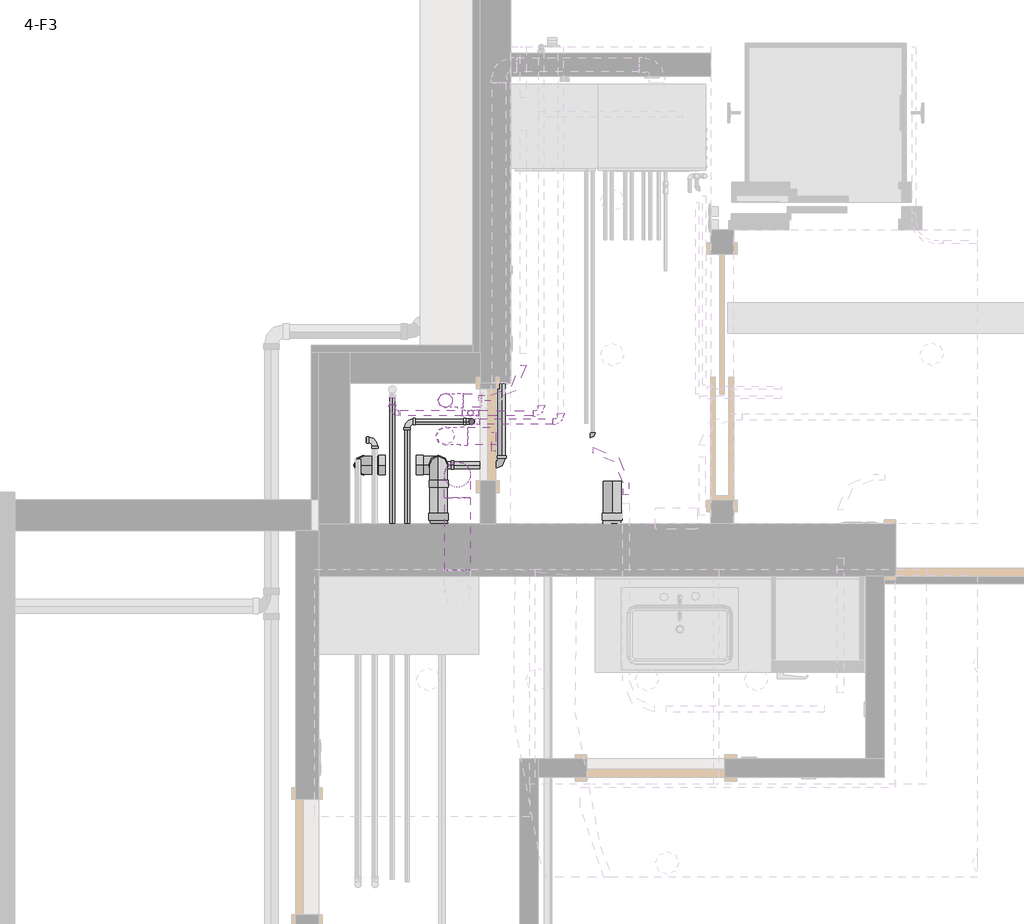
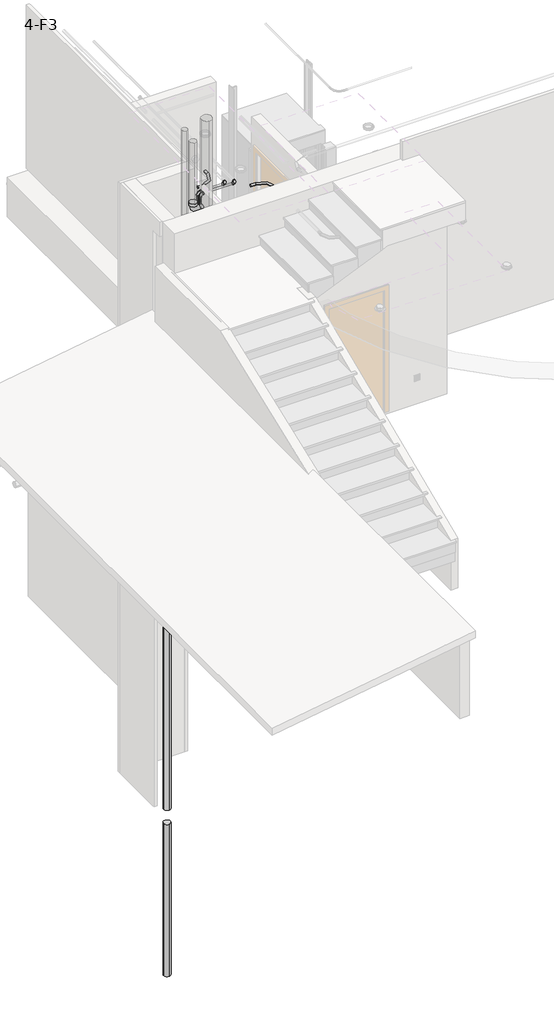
# One storey, part 6 of 11: 30 pipe segments, 22 pipe fittings, 2 cable carrier fittings, 1 proxy.
"""IFC4 building model written with IfcOpenShell, lengths in millimetres."""

from ifc_helpers import new_model, si_unit, point, frame, frame_2d, origin, place, context, project, spatial, circle_curve, trimmed, segment, composite_curve, outline, extrude, transform, mapped, element, save
from components import m_fan_standard_eed13d24, m_conduit_elbow_steel_standard_79cfaf55, m_bend_pvc_sch_40_dwv_standard_1fb0f857, m_bend_pvc_sch_40_dwv_standard_a4b99d37, m_bend_pvc_sch_40_dwv_standard_738aab8b, m_bend_pvc_sch_40_dwv_standard_b153bf5a, m_bend_pvc_sch_40_dwv_standard_2c4d52f1, m_bend_pvc_sch_40_dwv_standard_bf931f02, m_elbow_welded_generic_standard_9026c7fe, m_elbow_welded_generic_standard_c3fc6815, m_tee_reducing_sanitary_pvc_sch_40_dwv_standard_ac374d09

model = new_model("IFC4")

# Units and contexts
model_context = context("Model", 3, world=origin())
ifc_project = project(units=[si_unit("LENGTHUNIT", "METRE", prefix="MILLI")], contexts=[model_context])

# Site, building, storey
site = spatial("IfcSite", under=ifc_project)
building = spatial("IfcBuilding", under=site)
storey = spatial("IfcBuildingStorey", under=building, Name="4-F3", Elevation=9900.0)

# Proxy
placement = place(None, origin())
m_fan_standard_shape = m_fan_standard_eed13d24(model_context)
element("IfcBuildingElementProxy", 1, Name="M_Fan : Standard", ObjectType="M_Fan : Standard", at=placement, inside=storey, context=model_context, shape_type="MappedRepresentation", body=[
    mapped(m_fan_standard_shape, transform((-4957.4765921, 3704.4560655, 12700.0), x_axis=(0.0, 1.0, 0.0), y_axis=(0.0, 0.0, 1.0), z_axis=(1.0, 0.0, 0.0))),
])

# Cable carrier fittings
m_conduit_elbow_steel_standard_shape = m_conduit_elbow_steel_standard_79cfaf55(model_context)
element("IfcCableCarrierFitting", 2, ObjectType="M_Conduit Elbow - Steel : Standard", at=placement, inside=storey, context=model_context, shape_type="MappedRepresentation", body=[
    mapped(m_conduit_elbow_steel_standard_shape, transform((-4777.4765921, 3989.2572999, 12880.825), x_axis=(1.0, 0.0, 0.0), y_axis=(0.0, 1.0, 0.0), z_axis=(0.0, 0.0, 1.0))),
])
element("IfcCableCarrierFitting", 3, ObjectType="M_Conduit Elbow - Steel : Standard", at=placement, inside=storey, context=model_context, shape_type="MappedRepresentation", body=[
    mapped(m_conduit_elbow_steel_standard_shape, transform((-4107.6765921, 3649.3898607, 12880.825), x_axis=(0.0, 1.0, 0.0), y_axis=(-1.0, 0.0, 0.0), z_axis=(0.0, 0.0, 1.0))),
])

# Pipe fittings
m_bend_pvc_sch_40_dwv_standard_shape = m_bend_pvc_sch_40_dwv_standard_1fb0f857(model_context)
element("IfcPipeFitting", 4, ObjectType="M_Bend - PVC - Sch 40 - DWV : Standard", at=placement, inside=storey, context=model_context, shape_type="MappedRepresentation", body=[
    mapped(m_bend_pvc_sch_40_dwv_standard_shape, transform((-5817.4765912, 3552.3881129, 9525.0), x_axis=(0.0, 0.0, 1.0), y_axis=(1.0, 0.0, 0.0), z_axis=(0.0, 1.0, 0.0))),
])
element("IfcPipeFitting", 5, ObjectType="M_Bend - PVC - Sch 40 - DWV : Standard", at=placement, inside=storey, context=model_context, shape_type="MappedRepresentation", body=[
    mapped(m_bend_pvc_sch_40_dwv_standard_shape, transform((-5330.093101, 3552.3881129, 9525.0), x_axis=(1.0, 0.0, 0.0), y_axis=(0.0, 0.0, 1.0), z_axis=(0.0, -1.0, 0.0))),
])
element("IfcPipeFitting", 6, ObjectType="M_Bend - PVC - Sch 40 - DWV : Standard", at=placement, inside=storey, context=model_context, shape_type="MappedRepresentation", body=[
    mapped(m_bend_pvc_sch_40_dwv_standard_shape, transform((-5282.4765921, 3742.3881129, 12711.0), x_axis=(0.0, 0.0, -1.0), y_axis=(1.0, 0.0, 0.0), z_axis=(0.0, -1.0, 0.0))),
])
element("IfcPipeFitting", 7, ObjectType="M_Bend - PVC - Sch 40 - DWV : Standard", at=placement, inside=storey, context=model_context, shape_type="MappedRepresentation", body=[
    mapped(m_bend_pvc_sch_40_dwv_standard_shape, transform((-4197.4765921, 3096.4863231, 10189.0), x_axis=(1.0, 0.0, 0.0), y_axis=(0.0, 0.9999999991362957, -4.1562106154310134e-05), z_axis=(0.0, 4.1562106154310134e-05, 0.9999999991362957))),
])
element("IfcPipeFitting", 8, ObjectType="M_Bend - PVC - Sch 40 - DWV : Standard", at=placement, inside=storey, context=model_context, shape_type="MappedRepresentation", body=[
    mapped(m_bend_pvc_sch_40_dwv_standard_shape, transform((-5330.093101, 3096.4863231, 10189.0), x_axis=(0.0, -1.0, 0.0), y_axis=(1.0, 0.0, 0.0), z_axis=(0.0, 0.0, 1.0))),
])
element("IfcPipeFitting", 9, ObjectType="M_Bend - PVC - Sch 40 - DWV : Standard", at=placement, inside=storey, context=model_context, shape_type="MappedRepresentation", body=[
    mapped(m_bend_pvc_sch_40_dwv_standard_shape, transform((-5330.093101, 3552.3881129, 10189.0), x_axis=(0.0, 0.0, 1.0), y_axis=(0.0, -1.0, 0.0), z_axis=(1.0, 0.0, 0.0))),
])
m_bend_pvc_sch_40_dwv_standard_2_shape = m_bend_pvc_sch_40_dwv_standard_a4b99d37(model_context)
element("IfcPipeFitting", 10, ObjectType="M_Bend - PVC - Sch 40 - DWV : Standard", at=placement, inside=storey, context=model_context, shape_type="MappedRepresentation", body=[
    mapped(m_bend_pvc_sch_40_dwv_standard_2_shape, transform((-5282.4765921, 3974.4560655, 11700.0), x_axis=(-1.0, 0.0, 0.0), y_axis=(0.0, 0.0, 1.0), z_axis=(0.0, 1.0, 0.0))),
])
m_bend_pvc_sch_40_dwv_standard_3_shape = m_bend_pvc_sch_40_dwv_standard_738aab8b(model_context)
element("IfcPipeFitting", 11, ObjectType="M_Bend - PVC - Sch 40 - DWV : Standard", at=placement, inside=storey, context=model_context, shape_type="MappedRepresentation", body=[
    mapped(m_bend_pvc_sch_40_dwv_standard_3_shape, transform((-4917.4765921, 3552.3881129, 9850.0), x_axis=(1.0, 0.0, 0.0), y_axis=(0.0, 1.0, 0.0), z_axis=(0.0, 0.0, 1.0))),
])
element("IfcPipeFitting", 12, ObjectType="M_Bend - PVC - Sch 40 - DWV : Standard", at=placement, inside=storey, context=model_context, shape_type="MappedRepresentation", body=[
    mapped(m_bend_pvc_sch_40_dwv_standard_3_shape, transform((-4610.5767921, 3096.4863231, 10569.1), x_axis=(0.0, 0.0, 1.0), y_axis=(1.0, 0.0, 0.0), z_axis=(0.0, 1.0, 0.0))),
])
m_bend_pvc_sch_40_dwv_standard_4_shape = m_bend_pvc_sch_40_dwv_standard_b153bf5a(model_context)
element("IfcPipeFitting", 13, ObjectType="M_Bend - PVC - Sch 40 - DWV : Standard", at=placement, inside=storey, context=model_context, shape_type="MappedRepresentation", body=[
    mapped(m_bend_pvc_sch_40_dwv_standard_4_shape, transform((-4532.9770075, 3836.4863235, 12870.0), x_axis=(1.0, 0.0, 0.0), y_axis=(0.0, 1.0, 0.0), z_axis=(0.0, 0.0, 1.0))),
])
element("IfcPipeFitting", 14, ObjectType="M_Bend - PVC - Sch 40 - DWV : Standard", at=placement, inside=storey, context=model_context, shape_type="MappedRepresentation", body=[
    mapped(m_bend_pvc_sch_40_dwv_standard_4_shape, transform((-5120.1169828, 3892.0951687, 12870.0), x_axis=(-0.9999999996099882, 2.7928903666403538e-05, 0.0), y_axis=(0.0, 0.0, -1.0), z_axis=(-2.7928903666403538e-05, -0.9999999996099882, 0.0))),
])
element("IfcPipeFitting", 15, ObjectType="M_Bend - PVC - Sch 40 - DWV : Standard", at=placement, inside=storey, context=model_context, shape_type="MappedRepresentation", body=[
    mapped(m_bend_pvc_sch_40_dwv_standard_4_shape, transform((-5120.1169828, 3892.0951687, 11400.0), x_axis=(0.0, 0.0, -1.0), y_axis=(-1.0, 0.0, 0.0), z_axis=(0.0, 1.0, 0.0))),
])
element("IfcPipeFitting", 16, ObjectType="M_Bend - PVC - Sch 40 - DWV : Standard", at=placement, inside=storey, context=model_context, shape_type="MappedRepresentation", body=[
    mapped(m_bend_pvc_sch_40_dwv_standard_4_shape, transform((-5112.9770075, 3836.4863235, 12870.0), x_axis=(-1.0, 0.0, 0.0), y_axis=(0.0, 0.0, -1.0), z_axis=(0.0, -1.0, 0.0))),
])
element("IfcPipeFitting", 17, ObjectType="M_Bend - PVC - Sch 40 - DWV : Standard", at=placement, inside=storey, context=model_context, shape_type="MappedRepresentation", body=[
    mapped(m_bend_pvc_sch_40_dwv_standard_4_shape, transform((-5112.9770075, 3836.4863235, 9900.0), x_axis=(0.0, 0.0, -1.0), y_axis=(-1.0, 0.0, 0.0), z_axis=(0.0, 1.0, 0.0))),
])
element("IfcPipeFitting", 18, ObjectType="M_Bend - PVC - Sch 40 - DWV : Standard", at=placement, inside=storey, context=model_context, shape_type="MappedRepresentation", body=[
    mapped(m_bend_pvc_sch_40_dwv_standard_4_shape, transform((-5742.9770106, 3716.8684602, 9900.0000016), x_axis=(0.0, 0.999999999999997, -7.708798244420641e-08), y_axis=(-0.999999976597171, 1.6677688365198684e-11, 0.00021634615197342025), z_axis=(0.0002163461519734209, 7.708798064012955e-08, 0.999999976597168))),
])
element("IfcPipeFitting", 19, ObjectType="M_Bend - PVC - Sch 40 - DWV : Standard", at=placement, inside=storey, context=model_context, shape_type="MappedRepresentation", body=[
    mapped(m_bend_pvc_sch_40_dwv_standard_4_shape, transform((-5532.9770075, 3836.4863235, 9900.0), x_axis=(-1.0, 0.0, 0.0), y_axis=(0.0, -1.0, 0.0), z_axis=(0.0, 0.0, 1.0))),
])
m_bend_pvc_sch_40_dwv_standard_5_shape = m_bend_pvc_sch_40_dwv_standard_2c4d52f1(model_context)
element("IfcPipeFitting", 20, ObjectType="M_Bend - PVC - Sch 40 - DWV : Standard", at=placement, inside=storey, context=model_context, shape_type="MappedRepresentation", body=[
    mapped(m_bend_pvc_sch_40_dwv_standard_5_shape, transform((-4660.1213464, 3889.2569838, 12870.0), x_axis=(0.9999757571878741, -0.006963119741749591, 0.0), y_axis=(0.006963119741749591, 0.9999757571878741, 0.0), z_axis=(0.0, 0.0, 1.0))),
])
m_bend_pvc_sch_40_dwv_standard_6_shape = m_bend_pvc_sch_40_dwv_standard_bf931f02(model_context)
element("IfcPipeFitting", 21, ObjectType="M_Bend - PVC - Sch 40 - DWV : Standard", at=placement, inside=storey, context=model_context, shape_type="MappedRepresentation", body=[
    mapped(m_bend_pvc_sch_40_dwv_standard_6_shape, transform((-5629.7745883, 3892.0951687, 11400.0), x_axis=(-2.7091882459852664e-05, -0.999999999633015, 0.0), y_axis=(0.999999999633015, -2.7091882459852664e-05, 0.0), z_axis=(0.0, 0.0, 1.0))),
])
m_elbow_welded_generic_standard_shape = m_elbow_welded_generic_standard_9026c7fe(model_context)
element("IfcPipeFitting", 22, ObjectType="M_Elbow - Welded - Generic : Standard", at=placement, inside=storey, context=model_context, shape_type="MappedRepresentation", body=[
    mapped(m_elbow_welded_generic_standard_shape, transform((-5205.698775, 3492.3614186, 11985.0), x_axis=(0.0, 1.0, 0.0), y_axis=(0.0, 0.0, 1.0), z_axis=(1.0, 0.0, 0.0))),
])
m_elbow_welded_generic_standard_2_shape = m_elbow_welded_generic_standard_c3fc6815(model_context)
element("IfcPipeFitting", 23, ObjectType="M_Elbow - Welded - Generic : Standard", at=placement, inside=storey, context=model_context, shape_type="MappedRepresentation", body=[
    mapped(m_elbow_welded_generic_standard_2_shape, transform((-4324.0305462, 3745.4616042, 9540.0), x_axis=(1.0, 0.0, 0.0), y_axis=(0.0, 1.0, 0.0), z_axis=(0.0, 0.0, 1.0))),
])
m_tee_reducing_sanitary_pvc_sch_40_dwv_standard_shape = m_tee_reducing_sanitary_pvc_sch_40_dwv_standard_ac374d09(model_context)
element("IfcPipeFitting", 24, ObjectType="M_Tee Reducing Sanitary - PVC - Sch 40 - DWV : Standard", at=placement, inside=storey, context=model_context, shape_type="MappedRepresentation", body=[
    mapped(m_tee_reducing_sanitary_pvc_sch_40_dwv_standard_shape, transform((-4610.5767921, 3096.4863231, 10189.0), x_axis=(1.0, 0.0, 0.0), y_axis=(0.0, 0.0, -1.0), z_axis=(0.0, 1.0, 0.0))),
])
element("IfcPipeFitting", 25, ObjectType="M_Tee Reducing Sanitary - PVC - Sch 40 - DWV : Standard", at=placement, inside=storey, context=model_context, shape_type="MappedRepresentation", body=[
    mapped(m_tee_reducing_sanitary_pvc_sch_40_dwv_standard_shape, transform((-5330.093101, 3552.3881129, 9850.0), x_axis=(0.0, 0.0, 1.0), y_axis=(-1.0, 0.0, 0.0), z_axis=(0.0, -1.0, 0.0))),
])

# Pipe segments
element("IfcPipeSegment", 26, ObjectType="PVC - DWV", at=placement, inside=storey, context=model_context, shape_type="SweptSolid", body=[
    extrude(outline(composite_curve([segment(trimmed(circle_curve(frame_2d((11985.0, -5205.698775)), 84.1375), [point((11985.0, -5121.561275))], [point((12069.1375, -5205.698775))], False, "CARTESIAN"), True, "CONTINUOUS"), segment(trimmed(circle_curve(frame_2d((11985.0, -5205.698775)), 84.1375), [point((12069.1375, -5205.698775))], [point((11985.0, -5289.836275))], False, "CARTESIAN"), True, "CONTINUOUS"), segment(trimmed(circle_curve(frame_2d((11985.0, -5205.698775)), 84.1375), [point((11985.0, -5289.836275))], [point((11900.8625, -5205.698775))], False, "CARTESIAN"), True, "CONTINUOUS"), segment(trimmed(circle_curve(frame_2d((11985.0, -5205.698775)), 84.1375), [point((11900.8625, -5205.698775))], [point((11985.0, -5121.561275))], False, "CARTESIAN"), True, "CONTINUOUS")], self_intersect=False)), frame((0.0, 2869.3614186, 0.0), z_axis=(0.0, 1.0, 0.0), x_axis=(0.0, 0.0, 1.0)), (0.0, 0.0, 1.0), 471.0),
])
element("IfcPipeSegment", 27, ObjectType="PVC - DWV", at=placement, inside=storey, context=model_context, shape_type="SweptSolid", body=[
    extrude(outline(composite_curve([segment(trimmed(circle_curve(frame_2d((-5205.698775, 3492.3614186)), 84.1375), [point((-5289.836275, 3492.3614186))], [point((-5205.698775, 3576.4989186))], False, "CARTESIAN"), True, "CONTINUOUS"), segment(trimmed(circle_curve(frame_2d((-5205.698775, 3492.3614186)), 84.1375), [point((-5205.698775, 3576.4989186))], [point((-5121.561275, 3492.3614186))], False, "CARTESIAN"), True, "CONTINUOUS"), segment(trimmed(circle_curve(frame_2d((-5205.698775, 3492.3614186)), 84.1375), [point((-5121.561275, 3492.3614186))], [point((-5205.698775, 3408.2239186))], False, "CARTESIAN"), True, "CONTINUOUS"), segment(trimmed(circle_curve(frame_2d((-5205.698775, 3492.3614186)), 84.1375), [point((-5205.698775, 3408.2239186))], [point((-5289.836275, 3492.3614186))], False, "CARTESIAN"), True, "CONTINUOUS")], self_intersect=False)), frame((0.0, 0.0, 12137.0), z_axis=(0.0, 0.0, 1.0), x_axis=(1.0, 0.0, 0.0)), (0.0, 0.0, 1.0), 2283.0),
])
element("IfcPipeSegment", 28, ObjectType="PVC - DWV", at=placement, inside=storey, context=model_context, shape_type="SweptSolid", body=[
    extrude(outline(composite_curve([segment(trimmed(circle_curve(frame_2d((3096.4863231, 10569.1)), 24.13), [point((3120.6163231, 10569.1))], [point((3096.4863231, 10544.97))], False, "CARTESIAN"), True, "CONTINUOUS"), segment(trimmed(circle_curve(frame_2d((3096.4863231, 10569.1)), 24.13), [point((3096.4863231, 10544.97))], [point((3072.3563231, 10569.1))], False, "CARTESIAN"), True, "CONTINUOUS"), segment(trimmed(circle_curve(frame_2d((3096.4863231, 10569.1)), 24.13), [point((3072.3563231, 10569.1))], [point((3096.4863231, 10593.23))], False, "CARTESIAN"), True, "CONTINUOUS"), segment(trimmed(circle_curve(frame_2d((3096.4863231, 10569.1)), 24.13), [point((3096.4863231, 10593.23))], [point((3120.6163231, 10569.1))], False, "CARTESIAN"), True, "CONTINUOUS")], self_intersect=False)), frame((-4548.6769921, 0.0, 0.0), z_axis=(1.0, 0.0, 0.0), x_axis=(0.0, 1.0, 0.0)), (0.0, 0.0, 1.0), 729.3006),
])
element("IfcPipeSegment", 29, ObjectType="PVC - DWV", at=placement, inside=storey, context=model_context, shape_type="SweptSolid", body=[
    extrude(outline(composite_curve([segment(trimmed(circle_curve(frame_2d((-5817.4765912, 3552.3881129)), 57.15), [point((-5760.3265912, 3552.3881129))], [point((-5817.4765912, 3495.2381129))], False, "CARTESIAN"), True, "CONTINUOUS"), segment(trimmed(circle_curve(frame_2d((-5817.4765912, 3552.3881129)), 57.15), [point((-5817.4765912, 3495.2381129))], [point((-5874.6265912, 3552.3881129))], False, "CARTESIAN"), True, "CONTINUOUS"), segment(trimmed(circle_curve(frame_2d((-5817.4765912, 3552.3881129)), 57.15), [point((-5874.6265912, 3552.3881129))], [point((-5817.4765912, 3609.5381129))], False, "CARTESIAN"), True, "CONTINUOUS"), segment(trimmed(circle_curve(frame_2d((-5817.4765912, 3552.3881129)), 57.15), [point((-5817.4765912, 3609.5381129))], [point((-5760.3265912, 3552.3881129))], False, "CARTESIAN"), True, "CONTINUOUS")], self_intersect=False)), frame((0.0, 0.0, -136.475), z_axis=(0.0, 0.0, 1.0), x_axis=(1.0, 0.0, 0.0)), (0.0, 0.0, 1.0), 2615.0),
])
element("IfcPipeSegment", 30, ObjectType="PVC - DWV", at=placement, inside=storey, context=model_context, shape_type="SweptSolid", body=[
    extrude(outline(composite_curve([segment(trimmed(circle_curve(frame_2d((0.0, 16.7005)), 16.7005), [point((16.7005, 16.7005))], [point((0.0, 0.0))], False, "CARTESIAN"), True, "CONTINUOUS"), segment(trimmed(circle_curve(frame_2d((0.0, 16.7005)), 16.7005), [point((0.0, 0.0))], [point((-16.7005001, 16.7005))], False, "CARTESIAN"), True, "CONTINUOUS"), segment(trimmed(circle_curve(frame_2d((0.0, 16.7005)), 16.7005), [point((-16.7005001, 16.7005))], [point((0.0, 33.401))], False, "CARTESIAN"), True, "CONTINUOUS"), segment(trimmed(circle_curve(frame_2d((0.0, 16.7005)), 16.7005), [point((0.0, 33.401))], [point((16.7005, 16.7005))], False, "CARTESIAN"), True, "CONTINUOUS")], self_intersect=False)), frame((-4712.7341334, 3889.6233418, 12886.7005), z_axis=(-0.9999757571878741, 0.006963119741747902, 0.0), x_axis=(0.006963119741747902, 0.9999757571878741, 0.0)), (0.0, 0.0, 1.0), 354.7773877),
])
element("IfcPipeSegment", 31, ObjectType="PVC - DWV", at=placement, inside=storey, context=model_context, shape_type="SweptSolid", body=[
    extrude(outline(composite_curve([segment(trimmed(circle_curve(frame_2d((3836.4863235, 12870.0)), 16.7005), [point((3853.1868235, 12870.0))], [point((3836.4863235, 12853.2995))], False, "CARTESIAN"), True, "CONTINUOUS"), segment(trimmed(circle_curve(frame_2d((3836.4863235, 12870.0)), 16.7005), [point((3836.4863235, 12853.2995))], [point((3819.7858235, 12870.0))], False, "CARTESIAN"), True, "CONTINUOUS"), segment(trimmed(circle_curve(frame_2d((3836.4863235, 12870.0)), 16.7005), [point((3819.7858235, 12870.0))], [point((3836.4863235, 12886.7005))], False, "CARTESIAN"), True, "CONTINUOUS"), segment(trimmed(circle_curve(frame_2d((3836.4863235, 12870.0)), 16.7005), [point((3836.4863235, 12886.7005))], [point((3853.1868235, 12870.0))], False, "CARTESIAN"), True, "CONTINUOUS")], self_intersect=False)), frame((-5060.362945, 0.0, 0.0), z_axis=(1.0, 0.0, 0.0), x_axis=(0.0, 1.0, 0.0)), (0.0, 0.0, 1.0), 474.771875),
])
element("IfcPipeSegment", 32, ObjectType="PVC - DWV", at=placement, inside=storey, context=model_context, shape_type="SweptSolid", body=[
    extrude(outline(composite_curve([segment(trimmed(circle_curve(frame_2d((3716.8684602, 9900.0124169)), 16.7005), [point((3700.1679602, 9900.0124169))], [point((3716.8684602, 9916.7129169))], False, "CARTESIAN"), True, "CONTINUOUS"), segment(trimmed(circle_curve(frame_2d((3716.8684602, 9900.0124169)), 16.7005), [point((3716.8684602, 9916.7129169))], [point((3733.5689602, 9900.0124169))], False, "CARTESIAN"), True, "CONTINUOUS"), segment(trimmed(circle_curve(frame_2d((3716.8684602, 9900.0124169)), 16.7005), [point((3733.5689602, 9900.0124169))], [point((3716.8684602, 9883.3119169))], False, "CARTESIAN"), True, "CONTINUOUS"), segment(trimmed(circle_curve(frame_2d((3716.8684602, 9900.0124169)), 16.7005), [point((3716.8684602, 9883.3119169))], [point((3700.1679602, 9900.0124169))], False, "CARTESIAN"), True, "CONTINUOUS")], self_intersect=False)), frame((-5800.3631367, 0.0, 0.0), z_axis=(1.0, 0.0, 0.0), x_axis=(0.0, 1.0, 0.0)), (0.0, 0.0, 1.0), 4.7720648),
])
element("IfcPipeSegment", 33, ObjectType="PVC - DWV", at=placement, inside=storey, context=model_context, shape_type="SweptSolid", body=[
    extrude(outline(composite_curve([segment(trimmed(circle_curve(frame_2d((3892.0951687, 11400.0)), 16.7005), [point((3908.7956687, 11400.0))], [point((3892.0951687, 11383.2995))], False, "CARTESIAN"), True, "CONTINUOUS"), segment(trimmed(circle_curve(frame_2d((3892.0951687, 11400.0)), 16.7005), [point((3892.0951687, 11383.2995))], [point((3875.3946687, 11400.0))], False, "CARTESIAN"), True, "CONTINUOUS"), segment(trimmed(circle_curve(frame_2d((3892.0951687, 11400.0)), 16.7005), [point((3875.3946687, 11400.0))], [point((3892.0951687, 11416.7005))], False, "CARTESIAN"), True, "CONTINUOUS"), segment(trimmed(circle_curve(frame_2d((3892.0951687, 11400.0)), 16.7005), [point((3892.0951687, 11416.7005))], [point((3908.7956687, 11400.0))], False, "CARTESIAN"), True, "CONTINUOUS")], self_intersect=False)), frame((-5577.1605258, 0.0, 0.0), z_axis=(1.0, 0.0, 0.0), x_axis=(0.0, 1.0, 0.0)), (0.0, 0.0, 1.0), 404.4294806),
])
element("IfcPipeSegment", 34, ObjectType="PVC - DWV", at=placement, inside=storey, context=model_context, shape_type="SweptSolid", body=[
    extrude(outline(composite_curve([segment(trimmed(circle_curve(frame_2d((-5120.1169828, 3892.0951687)), 16.7005), [point((-5103.4164828, 3892.0951687))], [point((-5120.1169828, 3875.3946687))], False, "CARTESIAN"), True, "CONTINUOUS"), segment(trimmed(circle_curve(frame_2d((-5120.1169828, 3892.0951687)), 16.7005), [point((-5120.1169828, 3875.3946687))], [point((-5136.8174828, 3892.0951687))], False, "CARTESIAN"), True, "CONTINUOUS"), segment(trimmed(circle_curve(frame_2d((-5120.1169828, 3892.0951687)), 16.7005), [point((-5136.8174828, 3892.0951687))], [point((-5120.1169828, 3908.7956687))], False, "CARTESIAN"), True, "CONTINUOUS"), segment(trimmed(circle_curve(frame_2d((-5120.1169828, 3892.0951687)), 16.7005), [point((-5120.1169828, 3908.7956687))], [point((-5103.4164828, 3892.0951687))], False, "CARTESIAN"), True, "CONTINUOUS")], self_intersect=False)), frame((0.0, 0.0, 11452.6140625), z_axis=(0.0, 0.0, 1.0), x_axis=(1.0, 0.0, 0.0)), (0.0, 0.0, 1.0), 8.3859375),
])
element("IfcPipeSegment", 35, ObjectType="PVC - DWV", at=placement, inside=storey, context=model_context, shape_type="SweptSolid", body=[
    extrude(outline(composite_curve([segment(trimmed(circle_curve(frame_2d((0.0, -16.7005)), 16.7005), [point((0.0, 0.0))], [point((16.7005, -16.7005))], False, "CARTESIAN"), True, "CONTINUOUS"), segment(trimmed(circle_curve(frame_2d((0.0, -16.7005)), 16.7005), [point((16.7005, -16.7005))], [point((0.0, -33.401))], False, "CARTESIAN"), True, "CONTINUOUS"), segment(trimmed(circle_curve(frame_2d((0.0, -16.7005)), 16.7005), [point((0.0, -33.401))], [point((-16.7005, -16.7005))], False, "CARTESIAN"), True, "CONTINUOUS"), segment(trimmed(circle_curve(frame_2d((0.0, -16.7005)), 16.7005), [point((-16.7005, -16.7005))], [point((0.0, 0.0))], False, "CARTESIAN"), True, "CONTINUOUS")], self_intersect=False)), frame((-5646.4736629, 3944.7094056, 11400.0), z_axis=(1.0443296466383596e-05, 0.9999999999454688, 0.0), x_axis=(0.0, 0.0, -1.0)), (0.0, 0.0, 1.0), 48.818348),
])
element("IfcPipeSegment", 36, ObjectType="PVC - DWV", at=placement, inside=storey, context=model_context, shape_type="SweptSolid", body=[
    extrude(outline(composite_curve([segment(trimmed(circle_curve(frame_2d((-5120.1169828, 3892.0951687)), 16.7005), [point((-5103.4164828, 3892.0951687))], [point((-5120.1169828, 3875.3946687))], False, "CARTESIAN"), True, "CONTINUOUS"), segment(trimmed(circle_curve(frame_2d((-5120.1169828, 3892.0951687)), 16.7005), [point((-5120.1169828, 3875.3946687))], [point((-5136.8174828, 3892.0951687))], False, "CARTESIAN"), True, "CONTINUOUS"), segment(trimmed(circle_curve(frame_2d((-5120.1169828, 3892.0951687)), 16.7005), [point((-5136.8174828, 3892.0951687))], [point((-5120.1169828, 3908.7956687))], False, "CARTESIAN"), True, "CONTINUOUS"), segment(trimmed(circle_curve(frame_2d((-5120.1169828, 3892.0951687)), 16.7005), [point((-5120.1169828, 3908.7956687))], [point((-5103.4164828, 3892.0951687))], False, "CARTESIAN"), True, "CONTINUOUS")], self_intersect=False)), frame((0.0, 0.0, 11639.0), z_axis=(0.0, 0.0, 1.0), x_axis=(1.0, 0.0, 0.0)), (0.0, 0.0, 1.0), 1178.3859375),
])
element("IfcPipeSegment", 37, ObjectType="PVC - DWV", at=placement, inside=storey, context=model_context, shape_type="SweptSolid", body=[
    extrude(outline(composite_curve([segment(trimmed(circle_curve(frame_2d((3836.4863235, 9900.0)), 16.7005), [point((3819.7858235, 9900.0))], [point((3836.4863235, 9916.7005))], False, "CARTESIAN"), True, "CONTINUOUS"), segment(trimmed(circle_curve(frame_2d((3836.4863235, 9900.0)), 16.7005), [point((3836.4863235, 9916.7005))], [point((3853.1868235, 9900.0))], False, "CARTESIAN"), True, "CONTINUOUS"), segment(trimmed(circle_curve(frame_2d((3836.4863235, 9900.0)), 16.7005), [point((3853.1868235, 9900.0))], [point((3836.4863235, 9883.2995))], False, "CARTESIAN"), True, "CONTINUOUS"), segment(trimmed(circle_curve(frame_2d((3836.4863235, 9900.0)), 16.7005), [point((3836.4863235, 9883.2995))], [point((3819.7858235, 9900.0))], False, "CARTESIAN"), True, "CONTINUOUS")], self_intersect=False)), frame((-5480.362945, 0.0, 0.0), z_axis=(1.0, 0.0, 0.0), x_axis=(0.0, 1.0, 0.0)), (0.0, 0.0, 1.0), 314.771875),
])
element("IfcPipeSegment", 38, ObjectType="PVC - DWV", at=placement, inside=storey, context=model_context, shape_type="SweptSolid", body=[
    extrude(outline(composite_curve([segment(trimmed(circle_curve(frame_2d((-5112.9770075, 3836.4863235)), 16.7005), [point((-5129.6775075, 3836.4863235))], [point((-5112.9770075, 3853.1868235))], False, "CARTESIAN"), True, "CONTINUOUS"), segment(trimmed(circle_curve(frame_2d((-5112.9770075, 3836.4863235)), 16.7005), [point((-5112.9770075, 3853.1868235))], [point((-5096.2765075, 3836.4863235))], False, "CARTESIAN"), True, "CONTINUOUS"), segment(trimmed(circle_curve(frame_2d((-5112.9770075, 3836.4863235)), 16.7005), [point((-5096.2765075, 3836.4863235))], [point((-5112.9770075, 3819.7858235))], False, "CARTESIAN"), True, "CONTINUOUS"), segment(trimmed(circle_curve(frame_2d((-5112.9770075, 3836.4863235)), 16.7005), [point((-5112.9770075, 3819.7858235))], [point((-5129.6775075, 3836.4863235))], False, "CARTESIAN"), True, "CONTINUOUS")], self_intersect=False)), frame((0.0, 0.0, 9952.6140625), z_axis=(0.0, 0.0, 1.0), x_axis=(1.0, 0.0, 0.0)), (0.0, 0.0, 1.0), 2864.771875),
])
element("IfcPipeSegment", 39, ObjectType="PVC - DWV", at=placement, inside=storey, context=model_context, shape_type="SweptSolid", body=[
    extrude(outline(composite_curve([segment(trimmed(circle_curve(frame_2d((9900.0, -5532.9770075)), 16.7005), [point((9900.0, -5549.6775075))], [point((9883.2995, -5532.9770075))], False, "CARTESIAN"), True, "CONTINUOUS"), segment(trimmed(circle_curve(frame_2d((9900.0, -5532.9770075)), 16.7005), [point((9883.2995, -5532.9770075))], [point((9900.0, -5516.2765075))], False, "CARTESIAN"), True, "CONTINUOUS"), segment(trimmed(circle_curve(frame_2d((9900.0, -5532.9770075)), 16.7005), [point((9900.0, -5516.2765075))], [point((9916.7005, -5532.9770075))], False, "CARTESIAN"), True, "CONTINUOUS"), segment(trimmed(circle_curve(frame_2d((9900.0, -5532.9770075)), 16.7005), [point((9916.7005, -5532.9770075))], [point((9900.0, -5549.6775075))], False, "CARTESIAN"), True, "CONTINUOUS")], self_intersect=False)), frame((0.0, 3005.3082606, 0.0), z_axis=(0.0, 1.0, 0.0), x_axis=(0.0, 0.0, 1.0)), (0.0, 0.0, 1.0), 778.5640004),
])
element("IfcPipeSegment", 40, ObjectType="PVC - DWV", at=placement, inside=storey, context=model_context, shape_type="SweptSolid", body=[
    extrude(outline(composite_curve([segment(trimmed(circle_curve(frame_2d((0.0, -16.7005)), 16.7005), [point((0.0, 0.0))], [point((16.7005, -16.7005))], False, "CARTESIAN"), True, "CONTINUOUS"), segment(trimmed(circle_curve(frame_2d((0.0, -16.7005)), 16.7005), [point((16.7005, -16.7005))], [point((0.0, -33.401))], False, "CARTESIAN"), True, "CONTINUOUS"), segment(trimmed(circle_curve(frame_2d((0.0, -16.7005)), 16.7005), [point((0.0, -33.401))], [point((-16.7005, -16.7005))], False, "CARTESIAN"), True, "CONTINUOUS"), segment(trimmed(circle_curve(frame_2d((0.0, -16.7005)), 16.7005), [point((-16.7005, -16.7005))], [point((0.0, 0.0))], False, "CARTESIAN"), True, "CONTINUOUS")], self_intersect=False)), frame((-5646.4747007, 3005.3084006, 9900.0), z_axis=(8.380249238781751e-06, 0.9999999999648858, 0.0), x_axis=(0.0, 0.0, -1.0)), (0.0, 0.0, 1.0), 988.2193186),
])
element("IfcPipeSegment", 41, ObjectType="PVC - DWV", at=placement, inside=storey, context=model_context, shape_type="SweptSolid", body=[
    extrude(outline(composite_curve([segment(trimmed(circle_curve(frame_2d((-5330.093101, 3552.3881129)), 57.15), [point((-5387.243101, 3552.3881129))], [point((-5330.093101, 3609.5381129))], False, "CARTESIAN"), True, "CONTINUOUS"), segment(trimmed(circle_curve(frame_2d((-5330.093101, 3552.3881129)), 57.15), [point((-5330.093101, 3609.5381129))], [point((-5272.943101, 3552.3881129))], False, "CARTESIAN"), True, "CONTINUOUS"), segment(trimmed(circle_curve(frame_2d((-5330.093101, 3552.3881129)), 57.15), [point((-5272.943101, 3552.3881129))], [point((-5330.093101, 3495.2381129))], False, "CARTESIAN"), True, "CONTINUOUS"), segment(trimmed(circle_curve(frame_2d((-5330.093101, 3552.3881129)), 57.15), [point((-5330.093101, 3495.2381129))], [point((-5387.243101, 3552.3881129))], False, "CARTESIAN"), True, "CONTINUOUS")], self_intersect=False)), frame((0.0, 0.0, 9923.025), z_axis=(0.0, 0.0, 1.0), x_axis=(1.0, 0.0, 0.0)), (0.0, 0.0, 1.0), 123.1),
])
element("IfcPipeSegment", 42, ObjectType="PVC - DWV", at=placement, inside=storey, context=model_context, shape_type="SweptSolid", body=[
    extrude(outline(composite_curve([segment(trimmed(circle_curve(frame_2d((-5282.4765921, 3742.3881129)), 57.15), [point((-5339.6265921, 3742.3881129))], [point((-5282.4765921, 3799.5381129))], False, "CARTESIAN"), True, "CONTINUOUS"), segment(trimmed(circle_curve(frame_2d((-5282.4765921, 3742.3881129)), 57.15), [point((-5282.4765921, 3799.5381129))], [point((-5225.3265921, 3742.3881129))], False, "CARTESIAN"), True, "CONTINUOUS"), segment(trimmed(circle_curve(frame_2d((-5282.4765921, 3742.3881129)), 57.15), [point((-5225.3265921, 3742.3881129))], [point((-5282.4765921, 3685.2381129))], False, "CARTESIAN"), True, "CONTINUOUS"), segment(trimmed(circle_curve(frame_2d((-5282.4765921, 3742.3881129)), 57.15), [point((-5282.4765921, 3685.2381129))], [point((-5339.6265921, 3742.3881129))], False, "CARTESIAN"), True, "CONTINUOUS")], self_intersect=False)), frame((0.0, 0.0, 12853.875), z_axis=(0.0, 0.0, 1.0), x_axis=(1.0, 0.0, 0.0)), (0.0, 0.0, 1.0), 1046.125),
])
element("IfcPipeSegment", 43, ObjectType="PVC - DWV", at=placement, inside=storey, context=model_context, shape_type="SweptSolid", body=[
    extrude(outline(composite_curve([segment(trimmed(circle_curve(frame_2d((3974.4560655, 11700.0)), 44.45), [point((4018.9060655, 11700.0))], [point((3974.4560655, 11655.55))], False, "CARTESIAN"), True, "CONTINUOUS"), segment(trimmed(circle_curve(frame_2d((3974.4560655, 11700.0)), 44.45), [point((3974.4560655, 11655.55))], [point((3930.0060655, 11700.0))], False, "CARTESIAN"), True, "CONTINUOUS"), segment(trimmed(circle_curve(frame_2d((3974.4560655, 11700.0)), 44.45), [point((3930.0060655, 11700.0))], [point((3974.4560655, 11744.45))], False, "CARTESIAN"), True, "CONTINUOUS"), segment(trimmed(circle_curve(frame_2d((3974.4560655, 11700.0)), 44.45), [point((3974.4560655, 11744.45))], [point((4018.9060655, 11700.0))], False, "CARTESIAN"), True, "CONTINUOUS")], self_intersect=False)), frame((-5166.5763921, 0.0, 0.0), z_axis=(1.0, 0.0, 0.0), x_axis=(0.0, 1.0, 0.0)), (0.0, 0.0, 1.0), 115.6761921),
])
element("IfcPipeSegment", 44, ObjectType="PVC - DWV", at=placement, inside=storey, context=model_context, shape_type="SweptSolid", body=[
    extrude(outline(composite_curve([segment(trimmed(circle_curve(frame_2d((-5282.4765921, 3974.4560655)), 44.45), [point((-5326.9265921, 3974.4560655))], [point((-5282.4765921, 4018.9060655))], False, "CARTESIAN"), True, "CONTINUOUS"), segment(trimmed(circle_curve(frame_2d((-5282.4765921, 3974.4560655)), 44.45), [point((-5282.4765921, 4018.9060655))], [point((-5238.0265921, 3974.4560655))], False, "CARTESIAN"), True, "CONTINUOUS"), segment(trimmed(circle_curve(frame_2d((-5282.4765921, 3974.4560655)), 44.45), [point((-5238.0265921, 3974.4560655))], [point((-5282.4765921, 3930.0060655))], False, "CARTESIAN"), True, "CONTINUOUS"), segment(trimmed(circle_curve(frame_2d((-5282.4765921, 3974.4560655)), 44.45), [point((-5282.4765921, 3930.0060655))], [point((-5326.9265921, 3974.4560655))], False, "CARTESIAN"), True, "CONTINUOUS")], self_intersect=False)), frame((0.0, 0.0, 11815.9002), z_axis=(0.0, 0.0, 1.0), x_axis=(1.0, 0.0, 0.0)), (0.0, 0.0, 1.0), 2144.0998),
])
element("IfcPipeSegment", 45, ObjectType="PVC - DWV", at=placement, inside=storey, context=model_context, shape_type="SweptSolid", body=[
    extrude(outline(composite_curve([segment(trimmed(circle_curve(frame_2d((3742.3881129, 12711.0)), 57.15), [point((3685.2381129, 12711.0))], [point((3742.3881129, 12768.15))], False, "CARTESIAN"), True, "CONTINUOUS"), segment(trimmed(circle_curve(frame_2d((3742.3881129, 12711.0)), 57.15), [point((3742.3881129, 12768.15))], [point((3799.5381129, 12711.0))], False, "CARTESIAN"), True, "CONTINUOUS"), segment(trimmed(circle_curve(frame_2d((3742.3881129, 12711.0)), 57.15), [point((3799.5381129, 12711.0))], [point((3742.3881129, 12653.85))], False, "CARTESIAN"), True, "CONTINUOUS"), segment(trimmed(circle_curve(frame_2d((3742.3881129, 12711.0)), 57.15), [point((3742.3881129, 12653.85))], [point((3685.2381129, 12711.0))], False, "CARTESIAN"), True, "CONTINUOUS")], self_intersect=False)), frame((-5139.6015921, 0.0, 0.0), z_axis=(1.0, 0.0, 0.0), x_axis=(0.0, 1.0, 0.0)), (0.0, 0.0, 1.0), 197.125),
])
element("IfcPipeSegment", 46, ObjectType="PVC - DWV", at=placement, inside=storey, context=model_context, shape_type="SweptSolid", body=[
    extrude(outline(composite_curve([segment(trimmed(circle_curve(frame_2d((0.0, 57.15)), 57.15), [point((0.0, 0.0))], [point((-57.1499999, 57.15))], False, "CARTESIAN"), True, "CONTINUOUS"), segment(trimmed(circle_curve(frame_2d((0.0, 57.15)), 57.15), [point((-57.1499999, 57.15))], [point((0.0, 114.3))], False, "CARTESIAN"), True, "CONTINUOUS"), segment(trimmed(circle_curve(frame_2d((0.0, 57.15)), 57.15), [point((0.0, 114.3))], [point((57.15, 57.15))], False, "CARTESIAN"), True, "CONTINUOUS"), segment(trimmed(circle_curve(frame_2d((0.0, 57.15)), 57.15), [point((57.15, 57.15))], [point((0.0, 0.0))], False, "CARTESIAN"), True, "CONTINUOUS")], self_intersect=False)), frame((-4254.6265921, 3448.9335623, 10188.9853516), z_axis=(0.0, -0.9999999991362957, 4.156210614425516e-05), x_axis=(0.0, -4.156210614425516e-05, -0.9999999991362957)), (0.0, 0.0, 1.0), 209.5722395),
])
element("IfcPipeSegment", 47, ObjectType="PVC - DWV", at=placement, inside=storey, context=model_context, shape_type="SweptSolid", body=[
    extrude(outline(composite_curve([segment(trimmed(circle_curve(frame_2d((3096.4863231, 10189.0)), 57.15), [point((3039.3363231, 10189.0))], [point((3096.4863231, 10246.15))], False, "CARTESIAN"), True, "CONTINUOUS"), segment(trimmed(circle_curve(frame_2d((3096.4863231, 10189.0)), 57.15), [point((3096.4863231, 10246.15))], [point((3153.6363231, 10189.0))], False, "CARTESIAN"), True, "CONTINUOUS"), segment(trimmed(circle_curve(frame_2d((3096.4863231, 10189.0)), 57.15), [point((3153.6363231, 10189.0))], [point((3096.4863231, 10131.85))], False, "CARTESIAN"), True, "CONTINUOUS"), segment(trimmed(circle_curve(frame_2d((3096.4863231, 10189.0)), 57.15), [point((3096.4863231, 10131.85))], [point((3039.3363231, 10189.0))], False, "CARTESIAN"), True, "CONTINUOUS")], self_intersect=False)), frame((-4537.5517921, 0.0, 0.0), z_axis=(1.0, 0.0, 0.0), x_axis=(0.0, 1.0, 0.0)), (0.0, 0.0, 1.0), 197.2002),
])
element("IfcPipeSegment", 48, ObjectType="PVC - DWV", at=placement, inside=storey, context=model_context, shape_type="SweptSolid", body=[
    extrude(outline(composite_curve([segment(trimmed(circle_curve(frame_2d((-4610.5767921, 3096.4863231)), 24.13), [point((-4634.7067921, 3096.4863231))], [point((-4610.5767921, 3120.6163231))], False, "CARTESIAN"), True, "CONTINUOUS"), segment(trimmed(circle_curve(frame_2d((-4610.5767921, 3096.4863231)), 24.13), [point((-4610.5767921, 3120.6163231))], [point((-4586.4467921, 3096.4863231))], False, "CARTESIAN"), True, "CONTINUOUS"), segment(trimmed(circle_curve(frame_2d((-4610.5767921, 3096.4863231)), 24.13), [point((-4586.4467921, 3096.4863231))], [point((-4610.5767921, 3072.3563231))], False, "CARTESIAN"), True, "CONTINUOUS"), segment(trimmed(circle_curve(frame_2d((-4610.5767921, 3096.4863231)), 24.13), [point((-4610.5767921, 3072.3563231))], [point((-4634.7067921, 3096.4863231))], False, "CARTESIAN"), True, "CONTINUOUS")], self_intersect=False)), frame((0.0, 0.0, 10290.6), z_axis=(0.0, 0.0, 1.0), x_axis=(1.0, 0.0, 0.0)), (0.0, 0.0, 1.0), 216.6002),
])
element("IfcPipeSegment", 49, ObjectType="PVC - DWV", at=placement, inside=storey, context=model_context, shape_type="SweptSolid", body=[
    extrude(outline(composite_curve([segment(trimmed(circle_curve(frame_2d((3096.4863231, 10189.0)), 57.15), [point((3039.3363231, 10189.0))], [point((3096.4863231, 10246.15))], False, "CARTESIAN"), True, "CONTINUOUS"), segment(trimmed(circle_curve(frame_2d((3096.4863231, 10189.0)), 57.15), [point((3096.4863231, 10246.15))], [point((3153.6363231, 10189.0))], False, "CARTESIAN"), True, "CONTINUOUS"), segment(trimmed(circle_curve(frame_2d((3096.4863231, 10189.0)), 57.15), [point((3153.6363231, 10189.0))], [point((3096.4863231, 10131.85))], False, "CARTESIAN"), True, "CONTINUOUS"), segment(trimmed(circle_curve(frame_2d((3096.4863231, 10189.0)), 57.15), [point((3096.4863231, 10131.85))], [point((3039.3363231, 10189.0))], False, "CARTESIAN"), True, "CONTINUOUS")], self_intersect=False)), frame((-5187.218101, 0.0, 0.0), z_axis=(1.0, 0.0, 0.0), x_axis=(0.0, 1.0, 0.0)), (0.0, 0.0, 1.0), 479.7911089),
])
element("IfcPipeSegment", 50, ObjectType="PVC - DWV", at=placement, inside=storey, context=model_context, shape_type="SweptSolid", body=[
    extrude(outline(composite_curve([segment(trimmed(circle_curve(frame_2d((9850.0, -4917.4765921)), 24.13), [point((9850.0, -4941.6065921))], [point((9825.87, -4917.4765921))], False, "CARTESIAN"), True, "CONTINUOUS"), segment(trimmed(circle_curve(frame_2d((9850.0, -4917.4765921)), 24.13), [point((9825.87, -4917.4765921))], [point((9850.0, -4893.3465921))], False, "CARTESIAN"), True, "CONTINUOUS"), segment(trimmed(circle_curve(frame_2d((9850.0, -4917.4765921)), 24.13), [point((9850.0, -4893.3465921))], [point((9874.13, -4917.4765921))], False, "CARTESIAN"), True, "CONTINUOUS"), segment(trimmed(circle_curve(frame_2d((9850.0, -4917.4765921)), 24.13), [point((9874.13, -4917.4765921))], [point((9850.0, -4941.6065921))], False, "CARTESIAN"), True, "CONTINUOUS")], self_intersect=False)), frame((0.0, 3614.2879129, 0.0), z_axis=(0.0, 1.0, 0.0), x_axis=(0.0, 0.0, 1.0)), (0.0, 0.0, 1.0), 482.2128275),
])
element("IfcPipeSegment", 51, ObjectType="PVC - DWV", at=placement, inside=storey, context=model_context, shape_type="SweptSolid", body=[
    extrude(outline(composite_curve([segment(trimmed(circle_curve(frame_2d((10189.0, -5330.093101)), 57.15), [point((10189.0, -5272.943101))], [point((10246.15, -5330.093101))], False, "CARTESIAN"), True, "CONTINUOUS"), segment(trimmed(circle_curve(frame_2d((10189.0, -5330.093101)), 57.15), [point((10246.15, -5330.093101))], [point((10189.0, -5387.243101))], False, "CARTESIAN"), True, "CONTINUOUS"), segment(trimmed(circle_curve(frame_2d((10189.0, -5330.093101)), 57.15), [point((10189.0, -5387.243101))], [point((10131.85, -5330.093101))], False, "CARTESIAN"), True, "CONTINUOUS"), segment(trimmed(circle_curve(frame_2d((10189.0, -5330.093101)), 57.15), [point((10131.85, -5330.093101))], [point((10189.0, -5272.943101))], False, "CARTESIAN"), True, "CONTINUOUS")], self_intersect=False)), frame((0.0, 3239.3613231, 0.0), z_axis=(0.0, 1.0, 0.0), x_axis=(0.0, 0.0, 1.0)), (0.0, 0.0, 1.0), 170.1517898),
])
element("IfcPipeSegment", 52, ObjectType="PVC - DWV", at=placement, inside=storey, context=model_context, shape_type="SweptSolid", body=[
    extrude(outline(composite_curve([segment(trimmed(circle_curve(frame_2d((3552.3881129, 9850.0)), 24.13), [point((3576.5181129, 9850.0))], [point((3552.3881129, 9825.87))], False, "CARTESIAN"), True, "CONTINUOUS"), segment(trimmed(circle_curve(frame_2d((3552.3881129, 9850.0)), 24.13), [point((3552.3881129, 9825.87))], [point((3528.2581129, 9850.0))], False, "CARTESIAN"), True, "CONTINUOUS"), segment(trimmed(circle_curve(frame_2d((3552.3881129, 9850.0)), 24.13), [point((3528.2581129, 9850.0))], [point((3552.3881129, 9874.13))], False, "CARTESIAN"), True, "CONTINUOUS"), segment(trimmed(circle_curve(frame_2d((3552.3881129, 9850.0)), 24.13), [point((3552.3881129, 9874.13))], [point((3576.5181129, 9850.0))], False, "CARTESIAN"), True, "CONTINUOUS")], self_intersect=False)), frame((-5228.493101, 0.0, 0.0), z_axis=(1.0, 0.0, 0.0), x_axis=(0.0, 1.0, 0.0)), (0.0, 0.0, 1.0), 249.1167089),
])
element("IfcPipeSegment", 53, ObjectType="PVC - DWV", at=placement, inside=storey, context=model_context, shape_type="SweptSolid", body=[
    extrude(outline(composite_curve([segment(trimmed(circle_curve(frame_2d((-5330.093101, 3552.3881129)), 57.15), [point((-5387.243101, 3552.3881129))], [point((-5330.093101, 3609.5381129))], False, "CARTESIAN"), True, "CONTINUOUS"), segment(trimmed(circle_curve(frame_2d((-5330.093101, 3552.3881129)), 57.15), [point((-5330.093101, 3609.5381129))], [point((-5272.943101, 3552.3881129))], False, "CARTESIAN"), True, "CONTINUOUS"), segment(trimmed(circle_curve(frame_2d((-5330.093101, 3552.3881129)), 57.15), [point((-5272.943101, 3552.3881129))], [point((-5330.093101, 3495.2381129))], False, "CARTESIAN"), True, "CONTINUOUS"), segment(trimmed(circle_curve(frame_2d((-5330.093101, 3552.3881129)), 57.15), [point((-5330.093101, 3495.2381129))], [point((-5387.243101, 3552.3881129))], False, "CARTESIAN"), True, "CONTINUOUS")], self_intersect=False)), frame((0.0, 0.0, 9667.875), z_axis=(0.0, 0.0, 1.0), x_axis=(1.0, 0.0, 0.0)), (0.0, 0.0, 1.0), 85.2748),
])
element("IfcPipeSegment", 54, ObjectType="PVC - DWV", at=placement, inside=storey, context=model_context, shape_type="SweptSolid", body=[
    extrude(outline(composite_curve([segment(trimmed(circle_curve(frame_2d((-5817.4765912, 3552.3881129)), 57.15), [point((-5760.3265912, 3552.3881129))], [point((-5817.4765912, 3495.2381129))], False, "CARTESIAN"), True, "CONTINUOUS"), segment(trimmed(circle_curve(frame_2d((-5817.4765912, 3552.3881129)), 57.15), [point((-5817.4765912, 3495.2381129))], [point((-5874.6265912, 3552.3881129))], False, "CARTESIAN"), True, "CONTINUOUS"), segment(trimmed(circle_curve(frame_2d((-5817.4765912, 3552.3881129)), 57.15), [point((-5874.6265912, 3552.3881129))], [point((-5817.4765912, 3609.5381129))], False, "CARTESIAN"), True, "CONTINUOUS"), segment(trimmed(circle_curve(frame_2d((-5817.4765912, 3552.3881129)), 57.15), [point((-5817.4765912, 3609.5381129))], [point((-5760.3265912, 3552.3881129))], False, "CARTESIAN"), True, "CONTINUOUS")], self_intersect=False)), frame((0.0, 0.0, 6841.272125), z_axis=(0.0, 0.0, 1.0), x_axis=(1.0, 0.0, 0.0)), (0.0, 0.0, 1.0), 2540.852875),
])
element("IfcPipeSegment", 55, ObjectType="PVC - DWV", at=placement, inside=storey, context=model_context, shape_type="SweptSolid", body=[
    extrude(outline(composite_curve([segment(trimmed(circle_curve(frame_2d((-5817.4765912, 3552.3881129)), 57.15), [point((-5874.6265912, 3552.3881129))], [point((-5817.4765912, 3609.5381129))], False, "CARTESIAN"), True, "CONTINUOUS"), segment(trimmed(circle_curve(frame_2d((-5817.4765912, 3552.3881129)), 57.15), [point((-5817.4765912, 3609.5381129))], [point((-5760.3265912, 3552.3881129))], False, "CARTESIAN"), True, "CONTINUOUS"), segment(trimmed(circle_curve(frame_2d((-5817.4765912, 3552.3881129)), 57.15), [point((-5760.3265912, 3552.3881129))], [point((-5817.4765912, 3495.2381129))], False, "CARTESIAN"), True, "CONTINUOUS"), segment(trimmed(circle_curve(frame_2d((-5817.4765912, 3552.3881129)), 57.15), [point((-5817.4765912, 3495.2381129))], [point((-5874.6265912, 3552.3881129))], False, "CARTESIAN"), True, "CONTINUOUS")], self_intersect=False)), frame((0.0, 0.0, 2723.0), z_axis=(0.0, 0.0, 1.0), x_axis=(1.0, 0.0, 0.0)), (0.0, 0.0, 1.0), 3878.0900937),
])

save(model, "model.ifc")
